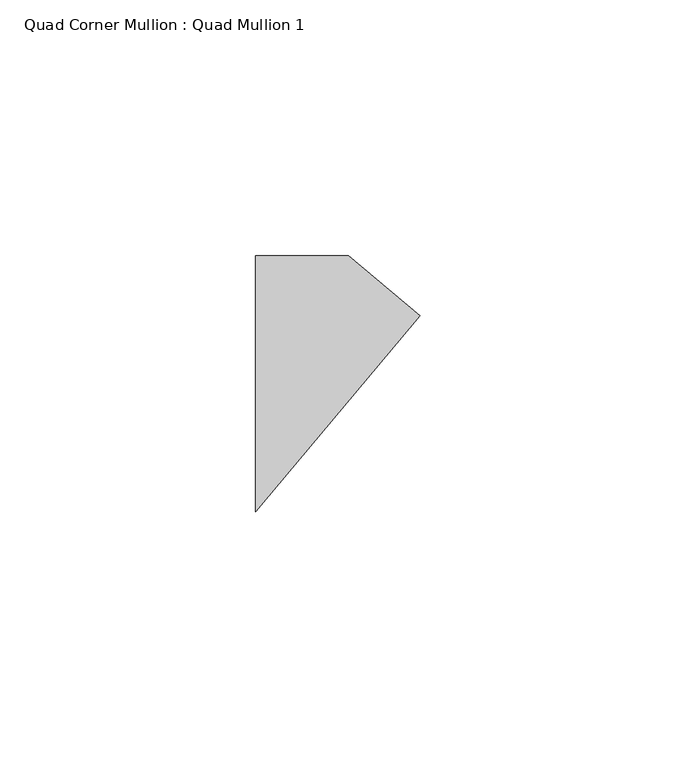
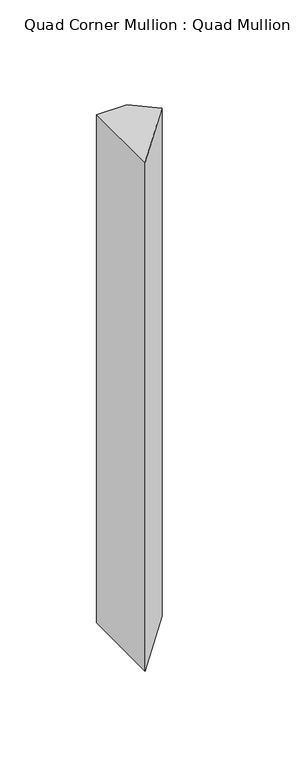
"""IFC4 building model written with IfcOpenShell, lengths in millimetres: member geometry, Quad Corner Mullion : Quad Mullion 1."""

import ifcopenshell
import ifcopenshell.guid

model = None  # the IFC model being written
_history = None  # IfcOwnerHistory: only IFC2X3 demands one
_inside = {}  # id of a spatial element -> (the spatial element, [elements in it])
_under = {}  # id of a project, library or spatial element -> (it, [spatial elements below it])
_declared = {}  # id of a project -> (the project, [libraries it declares])
_typed = {}  # id of a type object -> (the type object, [elements of that type])
_made_of = {}  # id of a material, layer set ... -> (it, [elements and type objects made of it])


def new_model(schema):
    """Start an empty IFC model of exactly this schema.

    Asked for "IFC4X3", IfcOpenShell would pick the latest addendum, in which some entities
    have other attributes; the version numbers below select the first issue.
    IFC2X3 requires an IfcOwnerHistory on every rooted entity: one is made here for all.
    """
    global model, _history
    if schema == "IFC4X3":
        model = ifcopenshell.file(schema_version=(4, 3, 0, 0))
    else:
        model = ifcopenshell.file(schema=schema)
    _inside.clear()
    _under.clear()
    _declared.clear()
    _typed.clear()
    _made_of.clear()
    _history = None
    if model.schema == "IFC2X3":
        org = make("IfcOrganization", Name="unknown")
        user = make(
            "IfcPersonAndOrganization",
            ThePerson=make("IfcPerson", FamilyName="unknown"),
            TheOrganization=org,
        )
        app = make(
            "IfcApplication",
            ApplicationDeveloper=org,
            Version="unknown",
            ApplicationFullName="unknown",
            ApplicationIdentifier="unknown",
        )
        _history = make(
            "IfcOwnerHistory",
            OwningUser=user,
            OwningApplication=app,
            ChangeAction="ADDED",
            CreationDate=0,
        )
    return model


def make(cls, **values):
    """One entity of the class cls with the attributes given. An attribute that is None is left unset."""
    return model.create_entity(
        cls, **{name: value for name, value in values.items() if value is not None}
    )


def rooted(cls, **values):
    """An entity with a GlobalId (a new one), such as an element, a storey or a relation."""
    return make(cls, GlobalId=ifcopenshell.guid.new(), OwnerHistory=_history, **values)


def si_unit(unit_type, name, prefix=None):
    """IfcSIUnit, for example si_unit("LENGTHUNIT", "METRE", prefix="MILLI")."""
    return make("IfcSIUnit", UnitType=unit_type, Prefix=prefix, Name=name)


def assignment(units):
    """IfcUnitAssignment: the units of a project."""
    return None if units is None else make("IfcUnitAssignment", Units=units)


def point(xyz):
    """IfcCartesianPoint."""
    return None if xyz is None else make("IfcCartesianPoint", Coordinates=xyz)


def direction(xyz):
    """IfcDirection."""
    return None if xyz is None else make("IfcDirection", DirectionRatios=xyz)


def frame(location, z_axis=None, x_axis=None):
    """IfcAxis2Placement3D, a coordinate frame: its origin and axes. An axis left out is left unset."""
    return make(
        "IfcAxis2Placement3D",
        Location=point(location),
        Axis=direction(z_axis),
        RefDirection=direction(x_axis),
    )


def origin():
    """The frame at (0, 0, 0) with its axes left unset."""
    return frame((0.0, 0.0, 0.0))


def place(relative_to, where):
    """IfcLocalPlacement: puts the frame where relative to a parent placement (None: the world)."""
    return make(
        "IfcLocalPlacement", PlacementRelTo=relative_to, RelativePlacement=where
    )


def context(
    kind, dimensions, precision=None, world=None, true_north=None, identifier=None
):
    """IfcGeometricRepresentationContext, for example the 3D "Model" context."""
    return make(
        "IfcGeometricRepresentationContext",
        ContextIdentifier=identifier,
        ContextType=kind,
        CoordinateSpaceDimension=dimensions,
        Precision=precision,
        WorldCoordinateSystem=world,
        TrueNorth=true_north,
    )


def project(units=None, contexts=None):
    """IfcProject with its units and contexts."""
    return rooted(
        "IfcProject",
        Name="project",
        RepresentationContexts=contexts,
        UnitsInContext=assignment(units),
    )


def spatial(cls, under=None, at=None, **own):
    """A site, building, storey or space (cls), placed at a placement, below another one or the project."""
    s = rooted(cls, ObjectPlacement=at, **own)
    if under is not None:
        _under.setdefault(under.id(), (under, []))[1].append(s)
    return s


def polyline(points):
    """IfcPolyline through the points."""
    return make("IfcPolyline", Points=[point(p) for p in points])


def outline(outer, holes=None, kind="AREA"):
    """IfcArbitraryClosedProfileDef: a profile drawn as a closed curve; with holes, ...WithVoids."""
    if holes is None:
        return make("IfcArbitraryClosedProfileDef", ProfileType=kind, OuterCurve=outer)
    return make(
        "IfcArbitraryProfileDefWithVoids",
        ProfileType=kind,
        OuterCurve=outer,
        InnerCurves=holes,
    )


def extrude(swept, where, along, depth):
    """IfcExtrudedAreaSolid: the profile swept, set in the frame where, extruded along a direction by depth."""
    return make(
        "IfcExtrudedAreaSolid",
        SweptArea=swept,
        Position=where,
        ExtrudedDirection=direction(along),
        Depth=depth,
    )


def shape(context_of_items, identifier, shape_type, items):
    """IfcShapeRepresentation: the items that make up one representation, for example the "Body"."""
    return make(
        "IfcShapeRepresentation",
        ContextOfItems=context_of_items,
        RepresentationIdentifier=identifier,
        RepresentationType=shape_type,
        Items=items,
    )


def source(mapping_origin, context_of_items, identifier, shape_type, items):
    """IfcRepresentationMap: a shape defined once, which mapped items show again and again."""
    return make(
        "IfcRepresentationMap",
        MappingOrigin=mapping_origin,
        MappedRepresentation=shape(context_of_items, identifier, shape_type, items),
    )


def transform(
    local_origin,
    x_axis=None,
    y_axis=None,
    z_axis=None,
    scale=None,
    scale2=None,
    scale3=None,
    uniform=True,
):
    """IfcCartesianTransformationOperator3D, or its non-uniform kind. x_axis, y_axis, z_axis: its Axis1, 2, 3."""
    if uniform:
        return make(
            "IfcCartesianTransformationOperator3D",
            Axis1=direction(x_axis),
            Axis2=direction(y_axis),
            LocalOrigin=point(local_origin),
            Scale=scale,
            Axis3=direction(z_axis),
        )
    return make(
        "IfcCartesianTransformationOperator3DnonUniform",
        Axis1=direction(x_axis),
        Axis2=direction(y_axis),
        LocalOrigin=point(local_origin),
        Scale=scale,
        Axis3=direction(z_axis),
        Scale2=scale2,
        Scale3=scale3,
    )


def mapped(mapping_source, mapping_target):
    """IfcMappedItem: shows the shape of a source again, moved by a transform."""
    return make(
        "IfcMappedItem", MappingSource=mapping_source, MappingTarget=mapping_target
    )


def made_of(thing, what):
    """Note that an element or type object is made of a material, layer set ...; save() writes the relation."""
    if what is not None:
        _made_of.setdefault(what.id(), (what, []))[1].append(thing)
    return thing


def element(
    cls,
    number,
    at=None,
    inside=None,
    cuts=None,
    type_object=None,
    material=None,
    context=None,
    identifier="Body",
    shape_type=None,
    held_by="IfcProductDefinitionShape",
    body=None,
    shapes=None,
    **own,
):
    """One element of the class cls, such as IfcWall. Its Tag is "e" and its number.

    at: its placement. inside: the storey or other place that contains it. cuts: it is an
    opening in that element (IfcRelVoidsElement). A single representation is given by context,
    identifier, shape_type and body (its items); several are given by shapes. held_by: the class
    of the entity that holds the representations. save() writes the other relations.
    """
    e = rooted(cls, Tag="e%d" % number, ObjectPlacement=at, **own)
    if body is not None:
        shapes = [shape(context, identifier, shape_type, body)]
    if shapes is not None:
        e.Representation = make(held_by, Representations=shapes)
    if inside is not None:
        _inside.setdefault(inside.id(), (inside, []))[1].append(e)
    if cuts is not None:
        rooted(
            "IfcRelVoidsElement", RelatingBuildingElement=cuts, RelatedOpeningElement=e
        )
    if type_object is not None:
        _typed.setdefault(type_object.id(), (type_object, []))[1].append(e)
    return made_of(e, material)


def aggregate(whole, parts):
    """IfcRelAggregates: a whole, such as a stair, and the parts it consists of."""
    return rooted("IfcRelAggregates", RelatingObject=whole, RelatedObjects=parts)


def save(model, path):
    """Write the relations noted so far, then the file.

    IfcRelAggregates (storeys below a building ...), IfcRelContainedInSpatialStructure (elements
    in a storey), IfcRelDefinesByType, IfcRelAssociatesMaterial and IfcRelDeclares: one each for
    every whole, place, type object, material and project.
    """
    for whole, parts in _under.values():
        aggregate(whole, parts)
    for where, things in _inside.values():
        rooted(
            "IfcRelContainedInSpatialStructure",
            RelatedElements=things,
            RelatingStructure=where,
        )
    for kind, things in _typed.values():
        rooted("IfcRelDefinesByType", RelatedObjects=things, RelatingType=kind)
    for what, things in _made_of.values():
        rooted("IfcRelAssociatesMaterial", RelatedObjects=things, RelatingMaterial=what)
    for by, libraries in _declared.values():
        rooted("IfcRelDeclares", RelatingContext=by, RelatedDefinitions=libraries)
    model.write(path)


def quad_corner_mullion_quad_mullion_1_a782a362(model_context):
    return source(origin(), model_context, "Body", "SweptSolid", [
        extrude(outline(polyline([(23.0148958, 13.3357545), (-9.08448, -25.0), (-9.08448, 25.0), (9.08448, 25.0), (23.0148958, 13.3357545)])), frame((0.0, 0.0, -320.0), z_axis=(0.0, 0.0, 1.0), x_axis=(1.0, 0.0, 0.0)), (0.0, 0.0, 1.0), 320.0),
    ])


if __name__ == "__main__":
    model = new_model("IFC4")
    model_context = context("Model", 3, world=origin())
    ifc_project = project(units=[si_unit("LENGTHUNIT", "METRE", prefix="MILLI")], contexts=[model_context])
    site = spatial("IfcSite", under=ifc_project)
    building = spatial("IfcBuilding", under=site)
    placement = place(None, origin())
    quad_corner_mullion_quad_mullion_1_shape = quad_corner_mullion_quad_mullion_1_a782a362(model_context)
    element("IfcMember", 1, ObjectType="Quad Corner Mullion : Quad Mullion 1", at=placement, inside=building, context=model_context, shape_type="MappedRepresentation", body=[
        mapped(quad_corner_mullion_quad_mullion_1_shape, transform((0.0, 0.0, 0.0), x_axis=(1.0, 0.0, 0.0), y_axis=(0.0, 1.0, 0.0), z_axis=(0.0, 0.0, 1.0))),
    ])
    save(model, "model.ifc")
